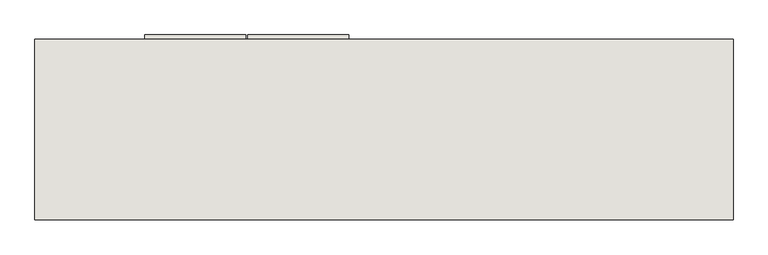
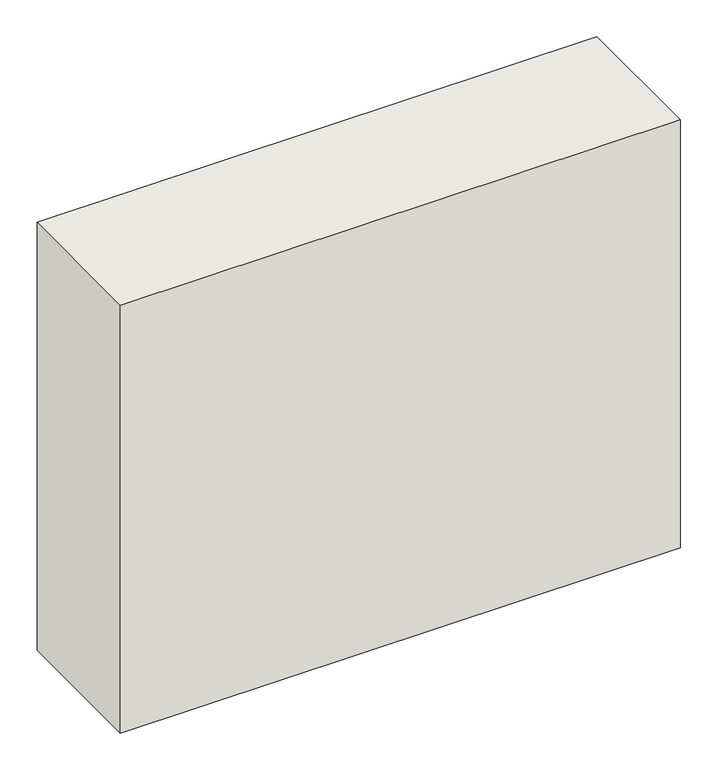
"""IFC4 building model written with IfcOpenShell, lengths in millimetres: wall geometry, MURO_NICHO1 : MURO_NICHO."""

from ifc_helpers import new_model, si_unit, frame, origin, place, context, project, spatial, polyline, outline, extrude, faceted_brep, source, transform, mapped, element, save


def wall_07366346(model_context):
    return source(origin(), model_context, "Body", "SolidModel", [
        extrude(outline(polyline([(-21197.7916895, 8444.7128614), (-20752.7916895, 8444.7128614), (-20752.7916895, 8424.7128614), (-21197.7916895, 8424.7128614), (-21197.7916895, 8444.7128614)])), frame((0.0, 0.0, 1920.8748493), z_axis=(0.0, 0.0, 1.0), x_axis=(1.0, 0.0, 0.0)), (0.0, 0.0, 1.0), 596.9825563),
        extrude(outline(polyline([(-21652.7916895, 8444.7128614), (-21207.7916895, 8444.7128614), (-21207.7916895, 8424.7128614), (-21652.7916895, 8424.7128614), (-21652.7916895, 8444.7128614)])), frame((0.0, 0.0, 1920.8748493), z_axis=(0.0, 0.0, 1.0), x_axis=(1.0, 0.0, 0.0)), (0.0, 0.0, 1.0), 596.9825563),
        faceted_brep([(-19057.5715512, 8424.7128614, 4040.0035848), (-22137.5711158, 8424.7128614, 4040.0035848), (-22137.5711158, 7629.2316763, 4040.0035848), (-19057.5715512, 7629.2316763, 4040.0035848), (-19057.5715512, 8424.7128614, 1550.0), (-19057.5715512, 7629.2316763, 1550.0), (-22137.5711158, 7629.2316763, 1550.0), (-22137.5711158, 8424.7128614, 1550.0), (-20752.7916895, 8424.7128614, 2517.8574056), (-21652.7916895, 8424.7128614, 2517.8574056), (-21652.7916895, 8424.7128614, 1920.8748493), (-20752.7916895, 8424.7128614, 1920.8748493), (-19654.7669231, 8424.7128614, 3418.057952), (-19654.7669231, 8424.7128614, 2938.057952), (-19354.7669231, 8424.7128614, 2938.057952), (-19354.7669231, 8424.7128614, 3418.057952), (-20752.7916895, 7874.7128614, 2517.8574056), (-21652.7916895, 7874.7128614, 2517.8574056), (-21652.7916895, 7874.7128614, 1920.8748493), (-20752.7916895, 7874.7128614, 1920.8748493), (-19654.7669231, 8124.7128614, 3418.057952), (-19354.7669231, 8124.7128614, 3418.057952), (-19354.7669231, 8124.7128614, 2938.057952), (-19654.7669231, 8124.7128614, 2938.057952)], [[[0, 1, 2, 3]], [[4, 5, 6, 7]], [[1, 0, 4, 7], [8, 9, 10, 11], [12, 13, 14, 15]], [[2, 1, 7, 6]], [[3, 2, 6, 5]], [[0, 3, 5, 4]], [[8, 16, 17, 9]], [[10, 18, 19, 11]], [[9, 17, 18, 10]], [[17, 16, 19, 18]], [[16, 8, 11, 19]], [[20, 21, 22, 23]], [[20, 23, 13, 12]], [[23, 22, 14, 13]], [[22, 21, 15, 14]], [[21, 20, 12, 15]]]),
    ])


if __name__ == "__main__":
    model = new_model("IFC4")
    model_context = context("Model", 3, world=origin())
    ifc_project = project(units=[si_unit("LENGTHUNIT", "METRE", prefix="MILLI")], contexts=[model_context])
    site = spatial("IfcSite", under=ifc_project)
    building = spatial("IfcBuilding", under=site)
    placement = place(None, origin())
    wall_shape = wall_07366346(model_context)
    element("IfcWall", 1, ObjectType="MURO_NICHO1 : MURO_NICHO", at=placement, inside=building, context=model_context, shape_type="MappedRepresentation", body=[
        mapped(wall_shape, transform((0.0, 0.0, 0.0), x_axis=(1.0, 0.0, 0.0), y_axis=(0.0, 1.0, 0.0), z_axis=(0.0, 0.0, 1.0))),
    ])
    save(model, "model.ifc")
